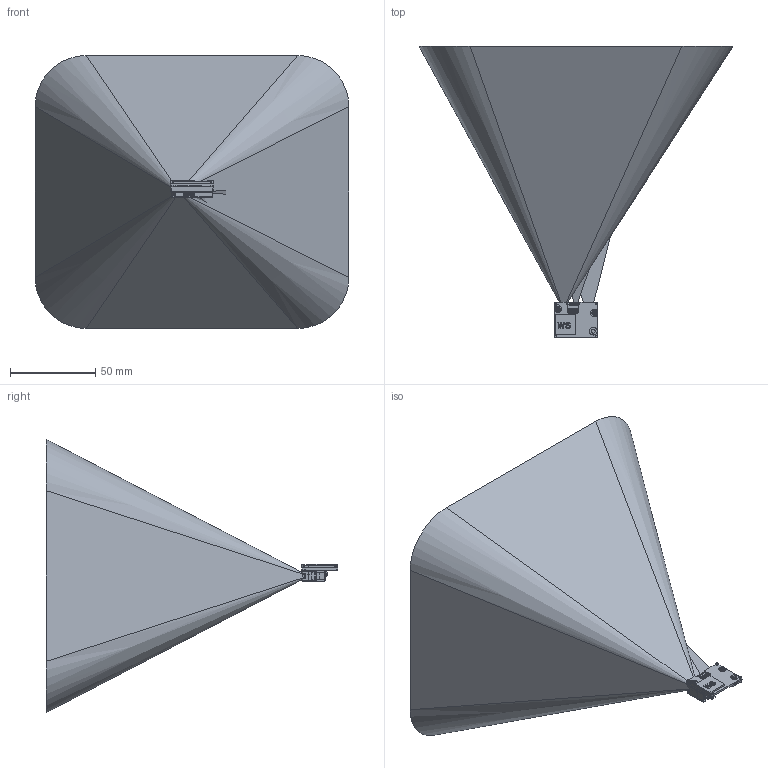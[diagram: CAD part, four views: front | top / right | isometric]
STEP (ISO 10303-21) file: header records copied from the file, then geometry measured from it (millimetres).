
FILE_DESCRIPTION((''),'2;1');
FILE_NAME('R-40_ASM','2015-10-22T',('skomi0303'),(''),'PRO/ENGINEER BY PARAMETRIC TECHNOLOGY CORPORATION, 2014090','PRO/ENGINEER BY PARAMETRIC TECHNOLOGY CORPORATION, 2014090','');
FILE_SCHEMA(('CONFIG_CONTROL_DESIGN'));
Products named in the file (19): R-40_CAMERA_BODY_ES_CAVI; R-40_PCB_LED_LIGHT_C; R-40_LED_LIGHT_XBD; R-40_C-MOS_PCB_ASM; R-40_CONNECT_PCB_C; R-40_LED_AIM_XPC; 17FXVL-RSM1-GAN-TF_HF_; R-40_CONNECT_PCB_ASM; R-40_SPACER; R-40_PCB_ASM; R-40_MASTER_LENS; R-40_MAIN_PCB; MOREX5042811900; R-40_MAIN_FPC; R-40_HOLDER; R-40_SCREW_1_2005; R-40_MAIN_PCB_ASM; R-40_MASK_LENS_DEMO; R-40_ASM
Assembly tree (19 placements, depth 4):
  R-40_ASM
    R-40_CAMERA_BODY_ES_CAVI
    R-40_PCB_ASM
      R-40_C-MOS_PCB_ASM
        R-40_PCB_LED_LIGHT_C
        R-40_LED_LIGHT_XBD
      R-40_CONNECT_PCB_ASM
        R-40_CONNECT_PCB_C
        R-40_LED_AIM_XPC
        17FXVL-RSM1-GAN-TF_HF_
      R-40_SPACER
    R-40_MASTER_LENS
    R-40_MAIN_PCB_ASM
      R-40_MAIN_PCB
      MOREX5042811900
      R-40_MAIN_FPC
      R-40_HOLDER
      R-40_SCREW_1_2005  x2
    R-40_MASK_LENS_DEMO
Bounding box: 184 x 170.83 x 160 mm (x, y, z)
Volume: 2308.2 mm3; surface area: 146828.7 mm2
Topology: 15 solids, 32 shells, 3148 faces, 8334 edges, 5266 vertices
Faces by surface type: plane 1900, cylinder 771, bspline 183, cone 130, torus 85, sphere 79
Entity records: 104362 total; most frequent: CARTESIAN_POINT 27429, ORIENTED_EDGE 16438, DIRECTION 15220, EDGE_CURVE 8255, VECTOR 6032, LINE 6032, VERTEX_POINT 5230, AXIS2_PLACEMENT_3D 4594
